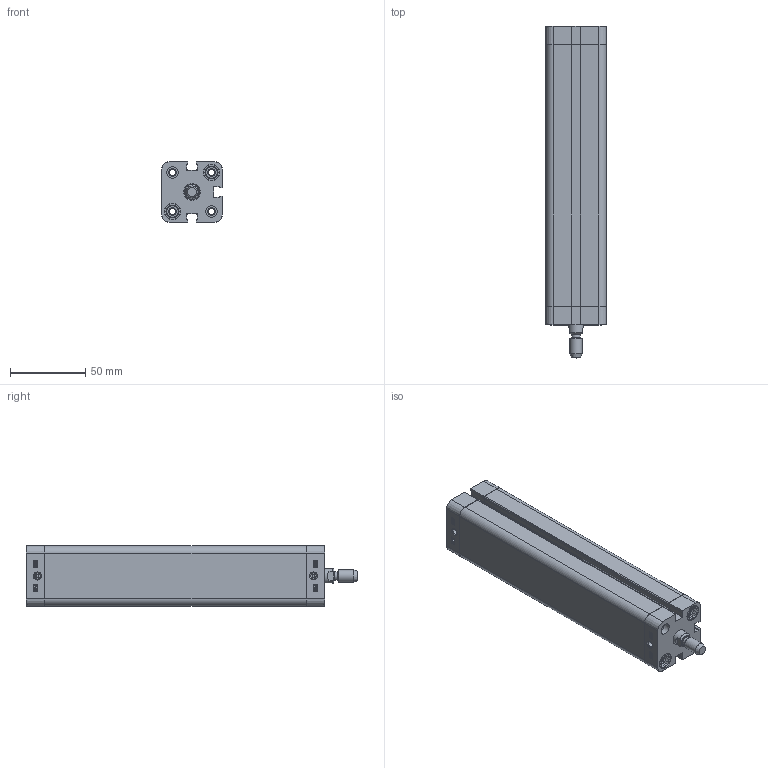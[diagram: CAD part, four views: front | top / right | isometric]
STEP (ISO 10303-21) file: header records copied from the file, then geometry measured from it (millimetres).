
FILE_DESCRIPTION((''),'2;1');
FILE_NAME('T:\Archivio Inventor\- CATALOGHI 2012\SERIE P - NUOVA\PDM\PDM025\PDM025.---.GS.M\PDM025.160.GS.M.stp','2013-01-31T08:09:29',('Administrator'),(''),'Autodesk Inventor 2012','Autodesk Inventor 2012','');
FILE_SCHEMA(('CONFIG_CONTROL_DESIGN'));
Length unit declared in the file: millimetre
Products named in the file (1): PDM025.160.GS.M
Bounding box: 40.3 x 221 x 40.3 mm (x, y, z)
Volume: 154160.2 mm3; surface area: 80583.8 mm2
Topology: 1 solids, 3 shells, 596 faces, 1552 edges, 1017 vertices
Faces by surface type: plane 312, cylinder 130, bspline 92, cone 50, torus 12
Full cylindrical faces by diameter (mm): 2 x2, 4.134 x10, 5.8 x1, 7.5 x4, 7.55 x2, 8 x9, 9 x1, 10 x1, 10.5 x1, 10.8 x4, 11.1 x4, 25 x1, 27.3 x1, 27.5 x1
Entity records: 18782 total; most frequent: CARTESIAN_POINT 4306, ORIENTED_EDGE 2888, DIRECTION 2606, EDGE_CURVE 1444, VERTEX_POINT 1002, VECTOR 898, LINE 898, AXIS2_PLACEMENT_3D 854
